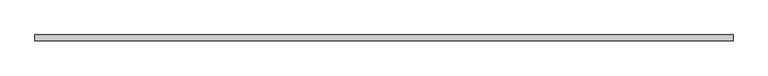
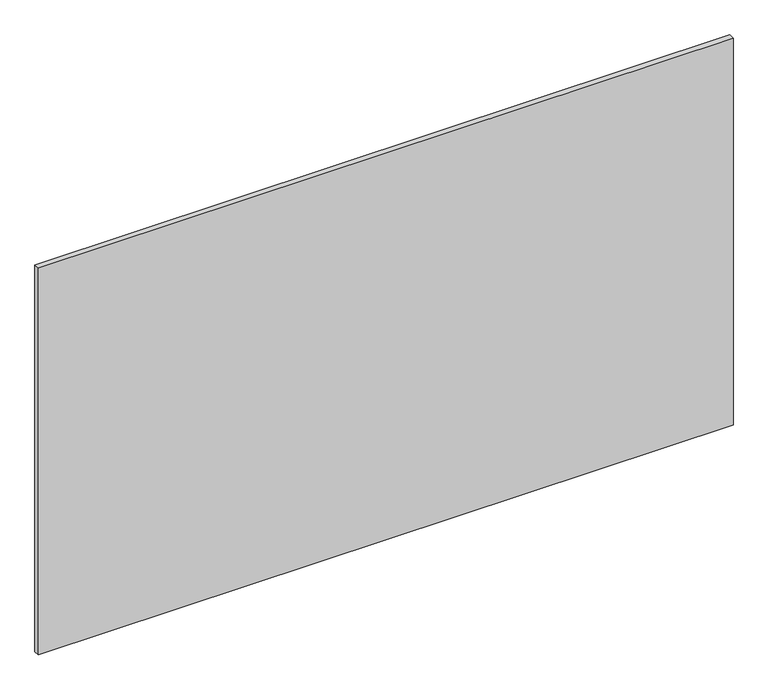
"""IFC4 building model written with IfcOpenShell, lengths in millimetres: plate geometry, 系統嵌板 : 玻璃 1.0cm."""

from ifc_helpers import new_model, si_unit, origin, origin_with_axes, place, context, project, spatial, polyline, outline, extrude, source, transform, mapped, element, save


def plate_6c13b2b5(model_context):
    return source(origin(), model_context, "Body", "SweptSolid", [
        extrude(outline(polyline([(610.5319245, -5.0), (-610.5319245, -5.0), (-610.5319245, 5.0), (610.5319245, 5.0), (610.5319245, -5.0)])), origin_with_axes(), (0.0, 0.0, 1.0), 719.0),
    ])


if __name__ == "__main__":
    model = new_model("IFC4")
    model_context = context("Model", 3, world=origin())
    ifc_project = project(units=[si_unit("LENGTHUNIT", "METRE", prefix="MILLI")], contexts=[model_context])
    site = spatial("IfcSite", under=ifc_project)
    building = spatial("IfcBuilding", under=site)
    placement = place(None, origin())
    plate_shape = plate_6c13b2b5(model_context)
    element("IfcPlate", 1, ObjectType="系統嵌板 : 玻璃 1.0cm", at=placement, inside=building, context=model_context, shape_type="MappedRepresentation", body=[
        mapped(plate_shape, transform((0.0, 0.0, 0.0), x_axis=(1.0, 0.0, 0.0), y_axis=(0.0, 1.0, 0.0), z_axis=(0.0, 0.0, 1.0))),
    ])
    save(model, "model.ifc")
